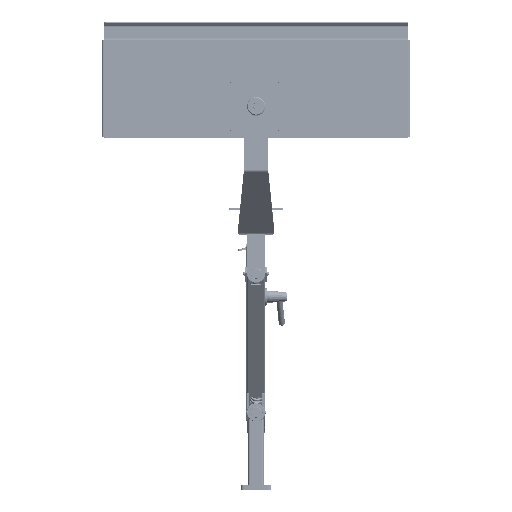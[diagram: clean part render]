
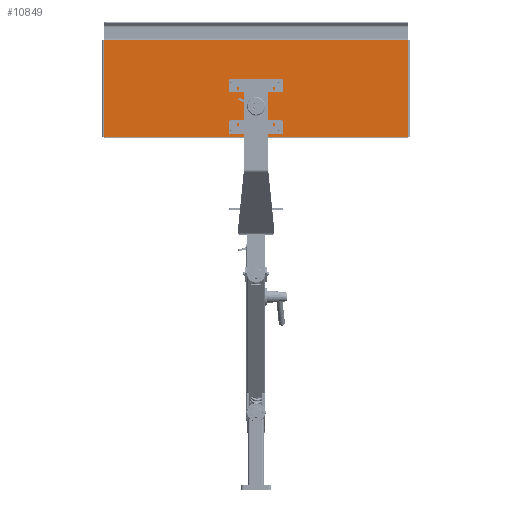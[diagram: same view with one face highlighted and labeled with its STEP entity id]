
A CAD part, front view. The second image highlights one B-rep face of the part: STEP entity #10849.
In plain terms, the highlighted planar face has unit normal (0, -1, 0.01) as drawn and (0, -1, 0) by its records, which use the part's own axes.
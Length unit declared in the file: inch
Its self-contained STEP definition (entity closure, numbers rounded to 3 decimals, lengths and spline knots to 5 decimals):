
#9 = CARTESIAN_POINT ( 'NONE',  ( 1.9685, -0.09, 0.4685 ) ) ;
#991 = ORIENTED_EDGE ( 'NONE', *, *, #65644, .F. ) ;
#1277 = CARTESIAN_POINT ( 'NONE',  ( 12.5, -0.09, 3.968 ) ) ;
#1605 = ORIENTED_EDGE ( 'NONE', *, *, #23596, .F. ) ;
#3297 = VERTEX_POINT ( 'NONE', #19306 ) ;
#4005 = VERTEX_POINT ( 'NONE', #46635 ) ;
#4522 = CARTESIAN_POINT ( 'NONE',  ( 12.5, -0.09, -4. ) ) ;
#5506 = ORIENTED_EDGE ( 'NONE', *, *, #60402, .F. ) ;
#5711 = DIRECTION ( 'NONE',  ( 0., 0., -1. ) ) ;
#7608 = DIRECTION ( 'NONE',  ( 0., 0., -1. ) ) ;
#7715 = DIRECTION ( 'NONE',  ( 0., 0., -1. ) ) ;
#10849 = ADVANCED_FACE ( 'NONE', ( #35389, #81046, #51797, #27205, #89756 ), #50288, .T. ) ;
#11352 = CARTESIAN_POINT ( 'NONE',  ( -1.9685, -0.09, 0.56354 ) ) ;
#11722 = ORIENTED_EDGE ( 'NONE', *, *, #76748, .F. ) ;
#12072 = AXIS2_PLACEMENT_3D ( 'NONE', #65056, #40460, #64023 ) ;
#12868 = CARTESIAN_POINT ( 'NONE',  ( 0., -0.09, 0. ) ) ;
#13211 = VECTOR ( 'NONE', #16759, 39.37008 ) ;
#15157 = CIRCLE ( 'NONE', #95380, 0.09504 ) ;
#15866 = VECTOR ( 'NONE', #94075, 39.37008 ) ;
#16271 = CARTESIAN_POINT ( 'NONE',  ( 12.5, -0.09, -4. ) ) ;
#16732 = DIRECTION ( 'NONE',  ( 0., -1., 0. ) ) ;
#16759 = DIRECTION ( 'NONE',  ( -1., 0., 0. ) ) ;
#17191 = EDGE_CURVE ( 'NONE', #29930, #57798, #88325, .T. ) ;
#19306 = CARTESIAN_POINT ( 'NONE',  ( -1.9685, -0.09, -3.56354 ) ) ;
#22142 = CARTESIAN_POINT ( 'NONE',  ( 1.9685, -0.09, -3.37346 ) ) ;
#22249 = VERTEX_POINT ( 'NONE', #11352 ) ;
#23596 = EDGE_CURVE ( 'NONE', #74975, #67515, #90107, .T. ) ;
#25671 = CIRCLE ( 'NONE', #78095, 0.09504 ) ;
#27205 = FACE_BOUND ( 'NONE', #29203, .T. ) ;
#29203 = EDGE_LOOP ( 'NONE', ( #85056, #991 ) ) ;
#29788 = AXIS2_PLACEMENT_3D ( 'NONE', #12868, #65613, #58446 ) ;
#29930 = VERTEX_POINT ( 'NONE', #22142 ) ;
#31684 = AXIS2_PLACEMENT_3D ( 'NONE', #99534, #37944, #44163 ) ;
#33658 = EDGE_CURVE ( 'NONE', #22249, #39332, #66489, .T. ) ;
#35376 = ORIENTED_EDGE ( 'NONE', *, *, #54857, .F. ) ;
#35389 = FACE_BOUND ( 'NONE', #82056, .T. ) ;
#37111 = CARTESIAN_POINT ( 'NONE',  ( -1.9685, -0.09, 0.37346 ) ) ;
#37907 = DIRECTION ( 'NONE',  ( 0., -1., 0. ) ) ;
#37944 = DIRECTION ( 'NONE',  ( 0., -1., 0. ) ) ;
#38125 = CIRCLE ( 'NONE', #12072, 0.09504 ) ;
#38724 = VECTOR ( 'NONE', #70380, 39.37008 ) ;
#39163 = ORIENTED_EDGE ( 'NONE', *, *, #49531, .T. ) ;
#39332 = VERTEX_POINT ( 'NONE', #37111 ) ;
#39375 = CARTESIAN_POINT ( 'NONE',  ( 1.9685, -0.09, -3.4685 ) ) ;
#40460 = DIRECTION ( 'NONE',  ( 0., -1., 0. ) ) ;
#40874 = ORIENTED_EDGE ( 'NONE', *, *, #85120, .F. ) ;
#43963 = ORIENTED_EDGE ( 'NONE', *, *, #63907, .F. ) ;
#44163 = DIRECTION ( 'NONE',  ( 0., 0., -1. ) ) ;
#44639 = VECTOR ( 'NONE', #95125, 39.37008 ) ;
#44890 = CIRCLE ( 'NONE', #85814, 0.09504 ) ;
#45249 = ORIENTED_EDGE ( 'NONE', *, *, #93326, .F. ) ;
#45613 = EDGE_LOOP ( 'NONE', ( #45249, #88345 ) ) ;
#46405 = LINE ( 'NONE', #1277, #15866 ) ;
#46635 = CARTESIAN_POINT ( 'NONE',  ( 1.9685, -0.09, 0.56354 ) ) ;
#46705 = CARTESIAN_POINT ( 'NONE',  ( -1.9685, -0.09, -3.4685 ) ) ;
#48091 = DIRECTION ( 'NONE',  ( 0., 0., -1. ) ) ;
#48980 = CARTESIAN_POINT ( 'NONE',  ( -12.5, -0.09, -4. ) ) ;
#49531 = EDGE_CURVE ( 'NONE', #74975, #60591, #46405, .T. ) ;
#50288 = PLANE ( 'NONE',  #29788 ) ;
#51797 = FACE_BOUND ( 'NONE', #45613, .T. ) ;
#54102 = CARTESIAN_POINT ( 'NONE',  ( -12.5, -0.09, 3.968 ) ) ;
#54157 = VERTEX_POINT ( 'NONE', #78596 ) ;
#54265 = VERTEX_POINT ( 'NONE', #101179 ) ;
#54857 = EDGE_CURVE ( 'NONE', #3297, #54265, #25671, .T. ) ;
#55192 = LINE ( 'NONE', #16271, #13211 ) ;
#55390 = CARTESIAN_POINT ( 'NONE',  ( 12.5, -0.09, -4. ) ) ;
#56146 = DIRECTION ( 'NONE',  ( 0., 0., -1. ) ) ;
#57798 = VERTEX_POINT ( 'NONE', #70392 ) ;
#58446 = DIRECTION ( 'NONE',  ( 0., 0., -1. ) ) ;
#58792 = AXIS2_PLACEMENT_3D ( 'NONE', #39375, #78381, #48091 ) ;
#59376 = CARTESIAN_POINT ( 'NONE',  ( 12.5, -0.09, 3.968 ) ) ;
#60402 = EDGE_CURVE ( 'NONE', #54265, #3297, #94248, .T. ) ;
#60591 = VERTEX_POINT ( 'NONE', #54102 ) ;
#61596 = ORIENTED_EDGE ( 'NONE', *, *, #17191, .F. ) ;
#62540 = DIRECTION ( 'NONE',  ( 0., -1., 0. ) ) ;
#62791 = CARTESIAN_POINT ( 'NONE',  ( -1.9685, -0.09, -3.4685 ) ) ;
#63121 = AXIS2_PLACEMENT_3D ( 'NONE', #62791, #70485, #93087 ) ;
#63347 = CARTESIAN_POINT ( 'NONE',  ( -1.9685, -0.09, 0.4685 ) ) ;
#63359 = EDGE_LOOP ( 'NONE', ( #1605, #39163, #43963, #11722 ) ) ;
#63907 = EDGE_CURVE ( 'NONE', #101097, #60591, #64310, .T. ) ;
#64023 = DIRECTION ( 'NONE',  ( 0., 0., -1. ) ) ;
#64310 = LINE ( 'NONE', #48980, #44639 ) ;
#64381 = CARTESIAN_POINT ( 'NONE',  ( -12.5, -0.09, -4. ) ) ;
#64864 = AXIS2_PLACEMENT_3D ( 'NONE', #63347, #16732, #56146 ) ;
#65056 = CARTESIAN_POINT ( 'NONE',  ( 1.9685, -0.09, 0.4685 ) ) ;
#65613 = DIRECTION ( 'NONE',  ( 0., -1., 0. ) ) ;
#65644 = EDGE_CURVE ( 'NONE', #39332, #22249, #75887, .T. ) ;
#66489 = CIRCLE ( 'NONE', #64864, 0.09504 ) ;
#67515 = VERTEX_POINT ( 'NONE', #55390 ) ;
#70380 = DIRECTION ( 'NONE',  ( 0., 0., -1. ) ) ;
#70392 = CARTESIAN_POINT ( 'NONE',  ( 1.9685, -0.09, -3.56354 ) ) ;
#70485 = DIRECTION ( 'NONE',  ( 0., -1., 0. ) ) ;
#74975 = VERTEX_POINT ( 'NONE', #59376 ) ;
#75887 = CIRCLE ( 'NONE', #31684, 0.09504 ) ;
#76307 = CARTESIAN_POINT ( 'NONE',  ( 1.9685, -0.09, -3.4685 ) ) ;
#76748 = EDGE_CURVE ( 'NONE', #67515, #101097, #55192, .T. ) ;
#77825 = DIRECTION ( 'NONE',  ( 0., -1., 0. ) ) ;
#78095 = AXIS2_PLACEMENT_3D ( 'NONE', #46705, #62540, #5711 ) ;
#78381 = DIRECTION ( 'NONE',  ( 0., -1., 0. ) ) ;
#78596 = CARTESIAN_POINT ( 'NONE',  ( 1.9685, -0.09, 0.37346 ) ) ;
#81046 = FACE_BOUND ( 'NONE', #91000, .T. ) ;
#82056 = EDGE_LOOP ( 'NONE', ( #5506, #35376 ) ) ;
#85056 = ORIENTED_EDGE ( 'NONE', *, *, #33658, .F. ) ;
#85120 = EDGE_CURVE ( 'NONE', #57798, #29930, #15157, .T. ) ;
#85814 = AXIS2_PLACEMENT_3D ( 'NONE', #9, #37907, #7715 ) ;
#88325 = CIRCLE ( 'NONE', #58792, 0.09504 ) ;
#88345 = ORIENTED_EDGE ( 'NONE', *, *, #91316, .F. ) ;
#89756 = FACE_OUTER_BOUND ( 'NONE', #63359, .T. ) ;
#90107 = LINE ( 'NONE', #4522, #38724 ) ;
#91000 = EDGE_LOOP ( 'NONE', ( #61596, #40874 ) ) ;
#91316 = EDGE_CURVE ( 'NONE', #54157, #4005, #38125, .T. ) ;
#93087 = DIRECTION ( 'NONE',  ( 0., 0., -1. ) ) ;
#93326 = EDGE_CURVE ( 'NONE', #4005, #54157, #44890, .T. ) ;
#94075 = DIRECTION ( 'NONE',  ( -1., 0., 0. ) ) ;
#94248 = CIRCLE ( 'NONE', #63121, 0.09504 ) ;
#95125 = DIRECTION ( 'NONE',  ( 0., 0., 1. ) ) ;
#95380 = AXIS2_PLACEMENT_3D ( 'NONE', #76307, #77825, #7608 ) ;
#99534 = CARTESIAN_POINT ( 'NONE',  ( -1.9685, -0.09, 0.4685 ) ) ;
#101097 = VERTEX_POINT ( 'NONE', #64381 ) ;
#101179 = CARTESIAN_POINT ( 'NONE',  ( -1.9685, -0.09, -3.37346 ) ) ;
